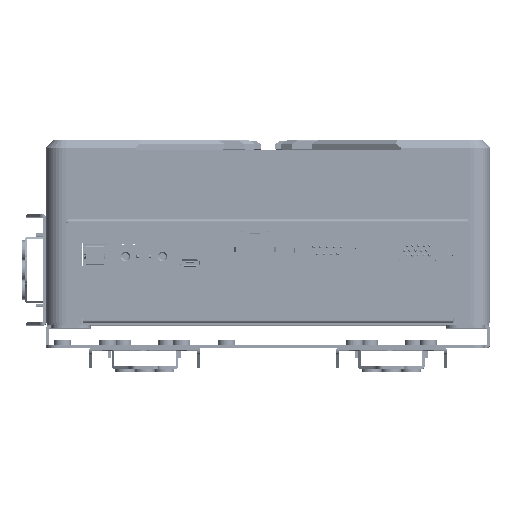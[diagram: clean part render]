
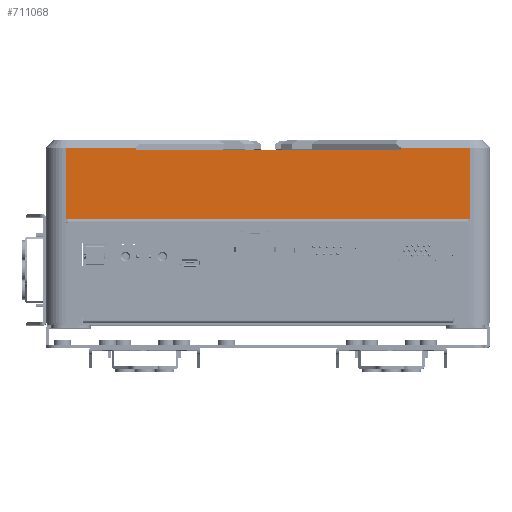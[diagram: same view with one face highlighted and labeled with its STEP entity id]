
A CAD part, top view. The second image highlights one B-rep face of the part: STEP entity #711068.
In plain terms, the highlighted planar face has unit normal (0, 0, 1).
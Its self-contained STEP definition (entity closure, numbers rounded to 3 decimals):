
#11168 = DIRECTION ( 'NONE',  ( -1., 0., 0. ) ) ;
#22636 = ORIENTED_EDGE ( 'NONE', *, *, #710589, .T. ) ;
#31866 = VERTEX_POINT ( 'NONE', #739653 ) ;
#66675 = ORIENTED_EDGE ( 'NONE', *, *, #147912, .T. ) ;
#67522 = LINE ( 'NONE', #683569, #201861 ) ;
#70813 = CARTESIAN_POINT ( 'NONE',  ( 0., 28., 68. ) ) ;
#107289 = ORIENTED_EDGE ( 'NONE', *, *, #669672, .F. ) ;
#121052 = PLANE ( 'NONE',  #231870 ) ;
#131055 = CARTESIAN_POINT ( 'NONE',  ( 82., 29., 68. ) ) ;
#134663 = VERTEX_POINT ( 'NONE', #148486 ) ;
#138534 = ORIENTED_EDGE ( 'NONE', *, *, #156799, .F. ) ;
#138777 = VECTOR ( 'NONE', #303601, 1000. ) ;
#147912 = EDGE_CURVE ( 'NONE', #242365, #626789, #67522, .T. ) ;
#148486 = CARTESIAN_POINT ( 'NONE',  ( 53.75, 28., 68. ) ) ;
#148920 = LINE ( 'NONE', #253451, #435708 ) ;
#156799 = EDGE_CURVE ( 'NONE', #242365, #346275, #148920, .T. ) ;
#184661 = CARTESIAN_POINT ( 'NONE',  ( -82., 29., 68. ) ) ;
#201861 = VECTOR ( 'NONE', #288192, 1000. ) ;
#203388 = ORIENTED_EDGE ( 'NONE', *, *, #360239, .T. ) ;
#211476 = DIRECTION ( 'NONE',  ( 0., 1., 0. ) ) ;
#215914 = CARTESIAN_POINT ( 'NONE',  ( -82., 9.5, 68. ) ) ;
#231870 = AXIS2_PLACEMENT_3D ( 'NONE', #631636, #636610, #293902 ) ;
#242365 = VERTEX_POINT ( 'NONE', #272919 ) ;
#252677 = VECTOR ( 'NONE', #211476, 1000. ) ;
#253451 = CARTESIAN_POINT ( 'NONE',  ( -53.75, 9.5, 68. ) ) ;
#258173 = FACE_OUTER_BOUND ( 'NONE', #653752, .T. ) ;
#265240 = VERTEX_POINT ( 'NONE', #576543 ) ;
#272919 = CARTESIAN_POINT ( 'NONE',  ( -53.75, 29., 68. ) ) ;
#273921 = CARTESIAN_POINT ( 'NONE',  ( 53.75, 9.5, 68. ) ) ;
#286688 = CARTESIAN_POINT ( 'NONE',  ( 82., 0., 68. ) ) ;
#288192 = DIRECTION ( 'NONE',  ( -1., 0., 0. ) ) ;
#293902 = DIRECTION ( 'NONE',  ( 1., 0., 0. ) ) ;
#303601 = DIRECTION ( 'NONE',  ( -1., 0., 0. ) ) ;
#330046 = LINE ( 'NONE', #430803, #490907 ) ;
#346275 = VERTEX_POINT ( 'NONE', #572966 ) ;
#348467 = ORIENTED_EDGE ( 'NONE', *, *, #675892, .T. ) ;
#360239 = EDGE_CURVE ( 'NONE', #626789, #31866, #481748, .T. ) ;
#409035 = VERTEX_POINT ( 'NONE', #131055 ) ;
#422226 = DIRECTION ( 'NONE',  ( -1., 0., 0. ) ) ;
#430803 = CARTESIAN_POINT ( 'NONE',  ( 82., 17., 68. ) ) ;
#435708 = VECTOR ( 'NONE', #543692, 1000. ) ;
#443630 = LINE ( 'NONE', #70813, #138777 ) ;
#464471 = VECTOR ( 'NONE', #422226, 1000. ) ;
#473777 = LINE ( 'NONE', #487179, #464471 ) ;
#478517 = DIRECTION ( 'NONE',  ( 0., -1., 0. ) ) ;
#481748 = LINE ( 'NONE', #215914, #633773 ) ;
#487179 = CARTESIAN_POINT ( 'NONE',  ( 0., 29., 68. ) ) ;
#490907 = VECTOR ( 'NONE', #478517, 1000. ) ;
#539715 = ORIENTED_EDGE ( 'NONE', *, *, #551364, .F. ) ;
#543692 = DIRECTION ( 'NONE',  ( 0., -1., 0. ) ) ;
#551364 = EDGE_CURVE ( 'NONE', #409035, #265240, #330046, .T. ) ;
#572966 = CARTESIAN_POINT ( 'NONE',  ( -53.75, 28., 68. ) ) ;
#576543 = CARTESIAN_POINT ( 'NONE',  ( 82., 0., 68. ) ) ;
#580007 = ORIENTED_EDGE ( 'NONE', *, *, #607859, .F. ) ;
#581027 = CARTESIAN_POINT ( 'NONE',  ( 53.75, 29., 68. ) ) ;
#607859 = EDGE_CURVE ( 'NONE', #134663, #644791, #655492, .T. ) ;
#616207 = DIRECTION ( 'NONE',  ( 0., -1., 0. ) ) ;
#626789 = VERTEX_POINT ( 'NONE', #184661 ) ;
#631636 = CARTESIAN_POINT ( 'NONE',  ( 0., 9.5, 68. ) ) ;
#633773 = VECTOR ( 'NONE', #616207, 1000. ) ;
#636610 = DIRECTION ( 'NONE',  ( 0., 0., 1. ) ) ;
#644791 = VERTEX_POINT ( 'NONE', #581027 ) ;
#653752 = EDGE_LOOP ( 'NONE', ( #138534, #66675, #203388, #107289, #539715, #22636, #580007, #348467 ) ) ;
#655492 = LINE ( 'NONE', #273921, #252677 ) ;
#669672 = EDGE_CURVE ( 'NONE', #265240, #31866, #713960, .T. ) ;
#675892 = EDGE_CURVE ( 'NONE', #134663, #346275, #443630, .T. ) ;
#683569 = CARTESIAN_POINT ( 'NONE',  ( 0., 29., 68. ) ) ;
#705296 = VECTOR ( 'NONE', #11168, 1000. ) ;
#710589 = EDGE_CURVE ( 'NONE', #409035, #644791, #473777, .T. ) ;
#711068 = ADVANCED_FACE ( 'NONE', ( #258173 ), #121052, .T. ) ;
#713960 = LINE ( 'NONE', #286688, #705296 ) ;
#739653 = CARTESIAN_POINT ( 'NONE',  ( -82., 0., 68. ) ) ;
